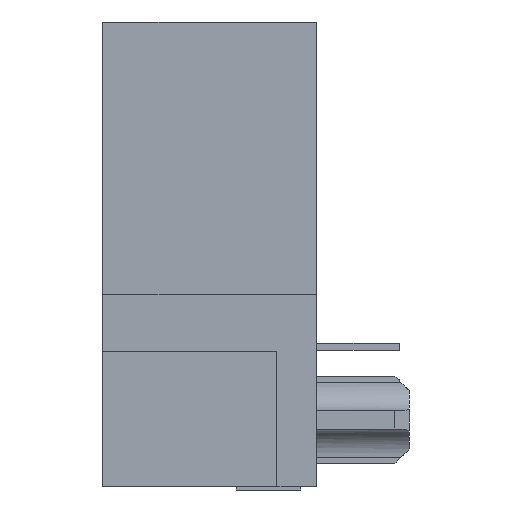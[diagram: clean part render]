
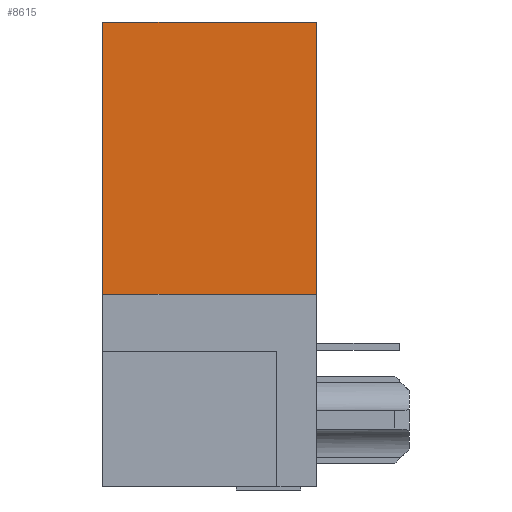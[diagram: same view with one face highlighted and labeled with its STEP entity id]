
A CAD part, left-side view. The second image highlights one B-rep face of the part: STEP entity #8615.
In plain terms, the highlighted planar face has unit normal (-1, 0, 0).
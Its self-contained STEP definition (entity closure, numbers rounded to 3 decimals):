
#17=DIRECTION('',(0.,0.,1.));
#18=VECTOR('',#17,9.55);
#19=CARTESIAN_POINT('',(-7.52,-4.1,-1.4));
#20=LINE('',#19,#18);
#209=DIRECTION('',(0.,1.,0.));
#210=VECTOR('',#209,7.5);
#211=CARTESIAN_POINT('',(-7.52,-4.1,8.15));
#212=LINE('',#211,#210);
#1593=DIRECTION('',(0.,0.,1.));
#1594=VECTOR('',#1593,9.55);
#1595=CARTESIAN_POINT('',(-7.52,3.4,-1.4));
#1596=LINE('',#1595,#1594);
#1621=DIRECTION('',(0.,1.,0.));
#1622=VECTOR('',#1621,7.5);
#1623=CARTESIAN_POINT('',(-7.52,-4.1,-1.4));
#1624=LINE('',#1623,#1622);
#5433=CARTESIAN_POINT('',(-7.52,-4.1,-1.4));
#5434=CARTESIAN_POINT('',(-7.52,-4.1,8.15));
#5435=VERTEX_POINT('',#5433);
#5436=VERTEX_POINT('',#5434);
#5441=CARTESIAN_POINT('',(-7.52,3.4,-1.4));
#5442=CARTESIAN_POINT('',(-7.52,3.4,8.15));
#5443=VERTEX_POINT('',#5441);
#5444=VERTEX_POINT('',#5442);
#8604=CARTESIAN_POINT('',(-7.52,-4.1,-1.4));
#8605=DIRECTION('',(-1.,0.,0.));
#8606=DIRECTION('',(0.,0.,1.));
#8607=AXIS2_PLACEMENT_3D('',#8604,#8605,#8606);
#8608=PLANE('',#8607);
#8609=ORIENTED_EDGE('',*,*,#7168,.F.);
#8610=ORIENTED_EDGE('',*,*,#8599,.T.);
#8611=ORIENTED_EDGE('',*,*,#8553,.T.);
#8612=ORIENTED_EDGE('',*,*,#7285,.F.);
#8613=EDGE_LOOP('',(#8609,#8610,#8611,#8612));
#8614=FACE_OUTER_BOUND('',#8613,.F.);
#8615=ADVANCED_FACE('',(#8614),#8608,.T.);
#7168=EDGE_CURVE('',#5435,#5436,#20,.T.);
#7285=EDGE_CURVE('',#5436,#5444,#212,.T.);
#8553=EDGE_CURVE('',#5443,#5444,#1596,.T.);
#8599=EDGE_CURVE('',#5435,#5443,#1624,.T.);
